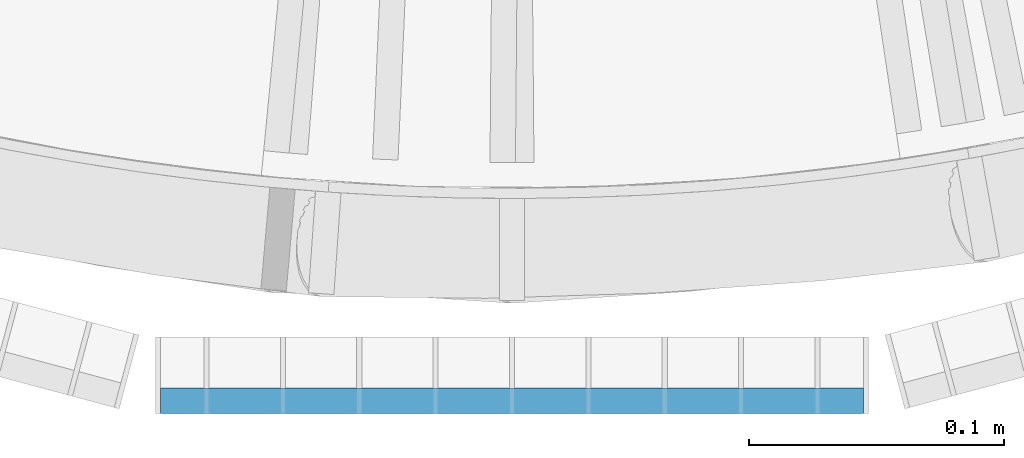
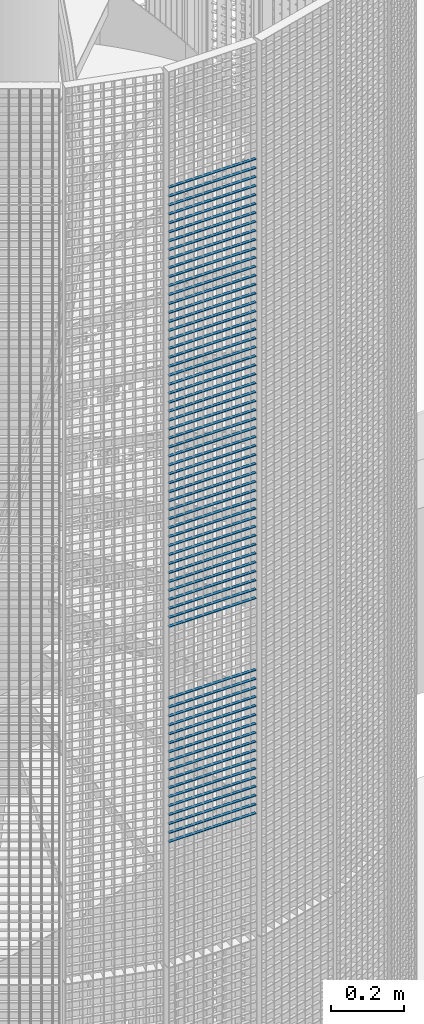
# One storey, part 137 of 1183: 67 beams, 1 element without a shape of its own.
"""IFC2X3 building model written with IfcOpenShell, lengths in millimetres."""

import ifcopenshell
import ifcopenshell.guid

model = None  # the IFC model being written
_history = None  # IfcOwnerHistory: only IFC2X3 demands one
_inside = {}  # id of a spatial element -> (the spatial element, [elements in it])
_under = {}  # id of a project, library or spatial element -> (it, [spatial elements below it])
_declared = {}  # id of a project -> (the project, [libraries it declares])
_typed = {}  # id of a type object -> (the type object, [elements of that type])
_made_of = {}  # id of a material, layer set ... -> (it, [elements and type objects made of it])


def new_model(schema):
    """Start an empty IFC model of exactly this schema.

    Asked for "IFC4X3", IfcOpenShell would pick the latest addendum, in which some entities
    have other attributes; the version numbers below select the first issue.
    IFC2X3 requires an IfcOwnerHistory on every rooted entity: one is made here for all.
    """
    global model, _history
    if schema == "IFC4X3":
        model = ifcopenshell.file(schema_version=(4, 3, 0, 0))
    else:
        model = ifcopenshell.file(schema=schema)
    _inside.clear()
    _under.clear()
    _declared.clear()
    _typed.clear()
    _made_of.clear()
    _history = None
    if model.schema == "IFC2X3":
        org = make("IfcOrganization", Name="unknown")
        user = make(
            "IfcPersonAndOrganization",
            ThePerson=make("IfcPerson", FamilyName="unknown"),
            TheOrganization=org,
        )
        app = make(
            "IfcApplication",
            ApplicationDeveloper=org,
            Version="unknown",
            ApplicationFullName="unknown",
            ApplicationIdentifier="unknown",
        )
        _history = make(
            "IfcOwnerHistory",
            OwningUser=user,
            OwningApplication=app,
            ChangeAction="ADDED",
            CreationDate=0,
        )
    return model


def make(cls, **values):
    """One entity of the class cls with the attributes given. An attribute that is None is left unset."""
    return model.create_entity(
        cls, **{name: value for name, value in values.items() if value is not None}
    )


def rooted(cls, **values):
    """An entity with a GlobalId (a new one), such as an element, a storey or a relation."""
    return make(cls, GlobalId=ifcopenshell.guid.new(), OwnerHistory=_history, **values)


def si_unit(unit_type, name, prefix=None):
    """IfcSIUnit, for example si_unit("LENGTHUNIT", "METRE", prefix="MILLI")."""
    return make("IfcSIUnit", UnitType=unit_type, Prefix=prefix, Name=name)


def assignment(units):
    """IfcUnitAssignment: the units of a project."""
    return None if units is None else make("IfcUnitAssignment", Units=units)


def point(xyz):
    """IfcCartesianPoint."""
    return None if xyz is None else make("IfcCartesianPoint", Coordinates=xyz)


def direction(xyz):
    """IfcDirection."""
    return None if xyz is None else make("IfcDirection", DirectionRatios=xyz)


def frame(location, z_axis=None, x_axis=None):
    """IfcAxis2Placement3D, a coordinate frame: its origin and axes. An axis left out is left unset."""
    return make(
        "IfcAxis2Placement3D",
        Location=point(location),
        Axis=direction(z_axis),
        RefDirection=direction(x_axis),
    )


def frame_2d(location, x_axis=None):
    """IfcAxis2Placement2D, a coordinate frame in the plane: its origin and x axis."""
    return make(
        "IfcAxis2Placement2D", Location=point(location), RefDirection=direction(x_axis)
    )


def origin_with_axes():
    """The frame at (0, 0, 0) with the z axis (0, 0, 1) and the x axis (1, 0, 0) written out."""
    return frame((0.0, 0.0, 0.0), z_axis=(0.0, 0.0, 1.0), x_axis=(1.0, 0.0, 0.0))


def origin_2d_with_axis():
    """The frame at (0, 0) in the plane with the x axis (1, 0) written out."""
    return frame_2d((0.0, 0.0), x_axis=(1.0, 0.0))


def place(relative_to, where):
    """IfcLocalPlacement: puts the frame where relative to a parent placement (None: the world)."""
    return make(
        "IfcLocalPlacement", PlacementRelTo=relative_to, RelativePlacement=where
    )


def context(
    kind, dimensions, precision=None, world=None, true_north=None, identifier=None
):
    """IfcGeometricRepresentationContext, for example the 3D "Model" context."""
    return make(
        "IfcGeometricRepresentationContext",
        ContextIdentifier=identifier,
        ContextType=kind,
        CoordinateSpaceDimension=dimensions,
        Precision=precision,
        WorldCoordinateSystem=world,
        TrueNorth=true_north,
    )


def subcontext(parent, identifier, kind, view, scale=None):
    """IfcGeometricRepresentationSubContext, for example "Body" below "Model"."""
    return make(
        "IfcGeometricRepresentationSubContext",
        ContextIdentifier=identifier,
        ContextType=kind,
        ParentContext=parent,
        TargetScale=scale,
        TargetView=view,
    )


def project(units=None, contexts=None):
    """IfcProject with its units and contexts."""
    return rooted(
        "IfcProject",
        Name="project",
        RepresentationContexts=contexts,
        UnitsInContext=assignment(units),
    )


def spatial(cls, under=None, at=None, **own):
    """A site, building, storey or space (cls), placed at a placement, below another one or the project."""
    s = rooted(cls, ObjectPlacement=at, **own)
    if under is not None:
        _under.setdefault(under.id(), (under, []))[1].append(s)
    return s


def profile(cls, at=None, kind="AREA", **sizes):
    """A parametric profile (cls). Its sizes go by their IFC names, for example OverallWidth=200.0."""
    return make(cls, ProfileType=kind, Position=at, **sizes)


def rectangle(**sizes):
    """IfcRectangleProfileDef."""
    return profile("IfcRectangleProfileDef", **sizes)


def extrude(swept, where, along, depth):
    """IfcExtrudedAreaSolid: the profile swept, set in the frame where, extruded along a direction by depth."""
    return make(
        "IfcExtrudedAreaSolid",
        SweptArea=swept,
        Position=where,
        ExtrudedDirection=direction(along),
        Depth=depth,
    )


def shape(context_of_items, identifier, shape_type, items):
    """IfcShapeRepresentation: the items that make up one representation, for example the "Body"."""
    return make(
        "IfcShapeRepresentation",
        ContextOfItems=context_of_items,
        RepresentationIdentifier=identifier,
        RepresentationType=shape_type,
        Items=items,
    )


def material(Name=None, Category=None):
    """IfcMaterial."""
    return make("IfcMaterial", Name=Name, Category=Category)


def made_of(thing, what):
    """Note that an element or type object is made of a material, layer set ...; save() writes the relation."""
    if what is not None:
        _made_of.setdefault(what.id(), (what, []))[1].append(thing)
    return thing


def type_object(cls, material=None, **own):
    """A type object (cls), such as IfcWallType, which elements share."""
    return made_of(rooted(cls, **own), material)


def element(
    cls,
    number,
    at=None,
    inside=None,
    cuts=None,
    type_object=None,
    material=None,
    context=None,
    identifier="Body",
    shape_type=None,
    held_by="IfcProductDefinitionShape",
    body=None,
    shapes=None,
    **own,
):
    """One element of the class cls, such as IfcWall. Its Tag is "e" and its number.

    at: its placement. inside: the storey or other place that contains it. cuts: it is an
    opening in that element (IfcRelVoidsElement). A single representation is given by context,
    identifier, shape_type and body (its items); several are given by shapes. held_by: the class
    of the entity that holds the representations. save() writes the other relations.
    """
    e = rooted(cls, Tag="e%d" % number, ObjectPlacement=at, **own)
    if body is not None:
        shapes = [shape(context, identifier, shape_type, body)]
    if shapes is not None:
        e.Representation = make(held_by, Representations=shapes)
    if inside is not None:
        _inside.setdefault(inside.id(), (inside, []))[1].append(e)
    if cuts is not None:
        rooted(
            "IfcRelVoidsElement", RelatingBuildingElement=cuts, RelatedOpeningElement=e
        )
    if type_object is not None:
        _typed.setdefault(type_object.id(), (type_object, []))[1].append(e)
    return made_of(e, material)


def aggregate(whole, parts):
    """IfcRelAggregates: a whole, such as a stair, and the parts it consists of."""
    return rooted("IfcRelAggregates", RelatingObject=whole, RelatedObjects=parts)


def save(model, path):
    """Write the relations noted so far, then the file.

    IfcRelAggregates (storeys below a building ...), IfcRelContainedInSpatialStructure (elements
    in a storey), IfcRelDefinesByType, IfcRelAssociatesMaterial and IfcRelDeclares: one each for
    every whole, place, type object, material and project.
    """
    for whole, parts in _under.values():
        aggregate(whole, parts)
    for where, things in _inside.values():
        rooted(
            "IfcRelContainedInSpatialStructure",
            RelatedElements=things,
            RelatingStructure=where,
        )
    for kind, things in _typed.values():
        rooted("IfcRelDefinesByType", RelatedObjects=things, RelatingType=kind)
    for what, things in _made_of.values():
        rooted("IfcRelAssociatesMaterial", RelatedObjects=things, RelatingMaterial=what)
    for by, libraries in _declared.values():
        rooted("IfcRelDeclares", RelatingContext=by, RelatedDefinitions=libraries)
    model.write(path)


model = new_model("IFC2X3")

# Units and contexts
model_context = context("Model", 3, precision=1e-05, world=origin_with_axes())
body_context = subcontext(model_context, "Body", "Model", "MODEL_VIEW")
ifc_project = project(units=[si_unit("LENGTHUNIT", "METRE", prefix="MILLI"), si_unit("AREAUNIT", "SQUARE_METRE"), si_unit("VOLUMEUNIT", "CUBIC_METRE"), si_unit("MASSUNIT", "GRAM", prefix="KILO"), si_unit("TIMEUNIT", "SECOND"), si_unit("PLANEANGLEUNIT", "RADIAN"), si_unit("SOLIDANGLEUNIT", "STERADIAN"), si_unit("THERMODYNAMICTEMPERATUREUNIT", "DEGREE_CELSIUS"), si_unit("LUMINOUSINTENSITYUNIT", "LUMEN")], contexts=[model_context])

# Site, building, storey
site_placement = place(None, origin_with_axes())
site = spatial("IfcSite", under=ifc_project, at=site_placement, Name="Undefined", CompositionType="ELEMENT")
building_placement = place(site_placement, origin_with_axes())
building = spatial("IfcBuilding", under=site, at=building_placement, Name="Undefined", CompositionType="ELEMENT")
storey_placement = place(building_placement, origin_with_axes())
storey = spatial("IfcBuildingStorey", under=building, at=storey_placement, Name="Undefined", CompositionType="ELEMENT", Elevation=0.0)

# Assembly, beams
assembly_placement = place(storey_placement, origin_with_axes())
assembly = element("IfcElementAssembly", 1, at=assembly_placement, inside=storey, Name="BORDURE", AssemblyPlace="NOTDEFINED", PredefinedType="NOTDEFINED")
ifc_material = material(Name="STEEL/S235JR")
beam_type = type_object("IfcBeamType", Name="PL2*10", PredefinedType="NOTDEFINED")
beam_1_placement = place(assembly_placement, frame((-137.99600337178, -1113.47999999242, 17610.0), z_axis=(0.0, -1.0, 0.0), x_axis=(1.0, 0.0, 0.0)))
beam_1 = element("IfcBeam", 2, at=beam_1_placement, type_object=beam_type, material=ifc_material, Name="ENTRETOISE", context=body_context, shape_type="SweptSolid", body=[
    extrude(rectangle(XDim=2.0, YDim=10.0, at=origin_2d_with_axis()), frame((275.999999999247, 9.09494701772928e-13, 1.53210777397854e-14), z_axis=(-1.0, 0.0, 0.0), x_axis=(0.0, -1.0, 0.0)), (0.0, 0.0, 1.0), 276.0),
])
beam_2_placement = place(assembly_placement, frame((-137.99600337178, -1113.47999999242, 17580.0), z_axis=(0.0, -1.0, 0.0), x_axis=(1.0, 0.0, 0.0)))
beam_2 = element("IfcBeam", 3, at=beam_2_placement, type_object=beam_type, material=ifc_material, Name="ENTRETOISE", context=body_context, shape_type="SweptSolid", body=[
    extrude(rectangle(XDim=2.0, YDim=10.0, at=origin_2d_with_axis()), frame((275.999999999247, 9.09494701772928e-13, 1.53210777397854e-14), z_axis=(-1.0, 0.0, 0.0), x_axis=(0.0, -1.0, 0.0)), (0.0, 0.0, 1.0), 276.0),
])
beam_3_placement = place(assembly_placement, frame((-137.99600337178, -1113.47999999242, 17550.0), z_axis=(0.0, -1.0, 0.0), x_axis=(1.0, 0.0, 0.0)))
beam_3 = element("IfcBeam", 4, at=beam_3_placement, type_object=beam_type, material=ifc_material, Name="ENTRETOISE", context=body_context, shape_type="SweptSolid", body=[
    extrude(rectangle(XDim=2.0, YDim=10.0, at=origin_2d_with_axis()), frame((275.999999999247, 9.09494701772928e-13, 1.53210777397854e-14), z_axis=(-1.0, 0.0, 0.0), x_axis=(0.0, -1.0, 0.0)), (0.0, 0.0, 1.0), 276.0),
])
beam_4_placement = place(assembly_placement, frame((-137.99600337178, -1113.47999999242, 17520.0), z_axis=(0.0, -1.0, 0.0), x_axis=(1.0, 0.0, 0.0)))
beam_4 = element("IfcBeam", 5, at=beam_4_placement, type_object=beam_type, material=ifc_material, Name="ENTRETOISE", context=body_context, shape_type="SweptSolid", body=[
    extrude(rectangle(XDim=2.0, YDim=10.0, at=origin_2d_with_axis()), frame((275.999999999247, 9.09494701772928e-13, 1.53210777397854e-14), z_axis=(-1.0, 0.0, 0.0), x_axis=(0.0, -1.0, 0.0)), (0.0, 0.0, 1.0), 276.0),
])
beam_5_placement = place(assembly_placement, frame((-137.99600337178, -1113.47999999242, 17490.0), z_axis=(0.0, -1.0, 0.0), x_axis=(1.0, 0.0, 0.0)))
beam_5 = element("IfcBeam", 6, at=beam_5_placement, type_object=beam_type, material=ifc_material, Name="ENTRETOISE", context=body_context, shape_type="SweptSolid", body=[
    extrude(rectangle(XDim=2.0, YDim=10.0, at=origin_2d_with_axis()), frame((275.999999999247, 9.09494701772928e-13, 1.53210777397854e-14), z_axis=(-1.0, 0.0, 0.0), x_axis=(0.0, -1.0, 0.0)), (0.0, 0.0, 1.0), 276.0),
])
beam_6_placement = place(assembly_placement, frame((-137.99600337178, -1113.47999999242, 17460.0), z_axis=(0.0, -1.0, 0.0), x_axis=(1.0, 0.0, 0.0)))
beam_6 = element("IfcBeam", 7, at=beam_6_placement, type_object=beam_type, material=ifc_material, Name="ENTRETOISE", context=body_context, shape_type="SweptSolid", body=[
    extrude(rectangle(XDim=2.0, YDim=10.0, at=origin_2d_with_axis()), frame((275.999999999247, 9.09494701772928e-13, 1.53210777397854e-14), z_axis=(-1.0, 0.0, 0.0), x_axis=(0.0, -1.0, 0.0)), (0.0, 0.0, 1.0), 276.0),
])
beam_7_placement = place(assembly_placement, frame((-137.99600337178, -1113.47999999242, 17430.0), z_axis=(0.0, -1.0, 0.0), x_axis=(1.0, 0.0, 0.0)))
beam_7 = element("IfcBeam", 8, at=beam_7_placement, type_object=beam_type, material=ifc_material, Name="ENTRETOISE", context=body_context, shape_type="SweptSolid", body=[
    extrude(rectangle(XDim=2.0, YDim=10.0, at=origin_2d_with_axis()), frame((275.999999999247, 9.09494701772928e-13, 1.53210777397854e-14), z_axis=(-1.0, 0.0, 0.0), x_axis=(0.0, -1.0, 0.0)), (0.0, 0.0, 1.0), 276.0),
])
beam_8_placement = place(assembly_placement, frame((-137.99600337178, -1113.47999999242, 17400.0), z_axis=(0.0, -1.0, 0.0), x_axis=(1.0, 0.0, 0.0)))
beam_8 = element("IfcBeam", 9, at=beam_8_placement, type_object=beam_type, material=ifc_material, Name="ENTRETOISE", context=body_context, shape_type="SweptSolid", body=[
    extrude(rectangle(XDim=2.0, YDim=10.0, at=origin_2d_with_axis()), frame((275.999999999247, 9.09494701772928e-13, 1.53210777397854e-14), z_axis=(-1.0, 0.0, 0.0), x_axis=(0.0, -1.0, 0.0)), (0.0, 0.0, 1.0), 276.0),
])
beam_9_placement = place(assembly_placement, frame((-137.99600337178, -1113.47999999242, 17370.0), z_axis=(0.0, -1.0, 0.0), x_axis=(1.0, 0.0, 0.0)))
beam_9 = element("IfcBeam", 10, at=beam_9_placement, type_object=beam_type, material=ifc_material, Name="ENTRETOISE", context=body_context, shape_type="SweptSolid", body=[
    extrude(rectangle(XDim=2.0, YDim=10.0, at=origin_2d_with_axis()), frame((275.999999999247, 9.09494701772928e-13, 1.53210777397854e-14), z_axis=(-1.0, 0.0, 0.0), x_axis=(0.0, -1.0, 0.0)), (0.0, 0.0, 1.0), 276.0),
])
beam_10_placement = place(assembly_placement, frame((-137.99600337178, -1113.47999999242, 17340.0), z_axis=(0.0, -1.0, 0.0), x_axis=(1.0, 0.0, 0.0)))
beam_10 = element("IfcBeam", 11, at=beam_10_placement, type_object=beam_type, material=ifc_material, Name="ENTRETOISE", context=body_context, shape_type="SweptSolid", body=[
    extrude(rectangle(XDim=2.0, YDim=10.0, at=origin_2d_with_axis()), frame((275.999999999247, 9.09494701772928e-13, 1.53210777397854e-14), z_axis=(-1.0, 0.0, 0.0), x_axis=(0.0, -1.0, 0.0)), (0.0, 0.0, 1.0), 276.0),
])
beam_11_placement = place(assembly_placement, frame((-137.996003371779, -1113.47999999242, 17310.0), z_axis=(0.0, -1.0, 0.0), x_axis=(1.0, 0.0, 0.0)))
beam_11 = element("IfcBeam", 12, at=beam_11_placement, type_object=beam_type, material=ifc_material, Name="ENTRETOISE", context=body_context, shape_type="SweptSolid", body=[
    extrude(rectangle(XDim=2.0, YDim=10.0, at=origin_2d_with_axis()), frame((275.999999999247, 9.09494701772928e-13, 1.53210777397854e-14), z_axis=(-1.0, 0.0, 0.0), x_axis=(0.0, -1.0, 0.0)), (0.0, 0.0, 1.0), 276.0),
])
beam_12_placement = place(assembly_placement, frame((-137.996003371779, -1113.47999999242, 17280.0), z_axis=(0.0, -1.0, 0.0), x_axis=(1.0, 0.0, 0.0)))
beam_12 = element("IfcBeam", 13, at=beam_12_placement, type_object=beam_type, material=ifc_material, Name="ENTRETOISE", context=body_context, shape_type="SweptSolid", body=[
    extrude(rectangle(XDim=2.0, YDim=10.0, at=origin_2d_with_axis()), frame((275.999999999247, 9.09494701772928e-13, 1.53210777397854e-14), z_axis=(-1.0, 0.0, 0.0), x_axis=(0.0, -1.0, 0.0)), (0.0, 0.0, 1.0), 276.0),
])
beam_13_placement = place(assembly_placement, frame((-137.996003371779, -1113.47999999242, 17250.0), z_axis=(0.0, -1.0, 0.0), x_axis=(1.0, 0.0, 0.0)))
beam_13 = element("IfcBeam", 14, at=beam_13_placement, type_object=beam_type, material=ifc_material, Name="ENTRETOISE", context=body_context, shape_type="SweptSolid", body=[
    extrude(rectangle(XDim=2.0, YDim=10.0, at=origin_2d_with_axis()), frame((275.999999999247, 9.09494701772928e-13, 1.53210777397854e-14), z_axis=(-1.0, 0.0, 0.0), x_axis=(0.0, -1.0, 0.0)), (0.0, 0.0, 1.0), 276.0),
])
beam_14_placement = place(assembly_placement, frame((-137.996003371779, -1113.47999999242, 17220.0), z_axis=(0.0, -1.0, 0.0), x_axis=(1.0, 0.0, 0.0)))
beam_14 = element("IfcBeam", 15, at=beam_14_placement, type_object=beam_type, material=ifc_material, Name="ENTRETOISE", context=body_context, shape_type="SweptSolid", body=[
    extrude(rectangle(XDim=2.0, YDim=10.0, at=origin_2d_with_axis()), frame((275.999999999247, 9.09494701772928e-13, 1.53210777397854e-14), z_axis=(-1.0, 0.0, 0.0), x_axis=(0.0, -1.0, 0.0)), (0.0, 0.0, 1.0), 276.0),
])
beam_15_placement = place(assembly_placement, frame((-137.996003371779, -1113.47999999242, 17190.0), z_axis=(0.0, -1.0, 0.0), x_axis=(1.0, 0.0, 0.0)))
beam_15 = element("IfcBeam", 16, at=beam_15_placement, type_object=beam_type, material=ifc_material, Name="ENTRETOISE", context=body_context, shape_type="SweptSolid", body=[
    extrude(rectangle(XDim=2.0, YDim=10.0, at=origin_2d_with_axis()), frame((275.999999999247, 9.09494701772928e-13, 1.53210777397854e-14), z_axis=(-1.0, 0.0, 0.0), x_axis=(0.0, -1.0, 0.0)), (0.0, 0.0, 1.0), 276.0),
])
beam_16_placement = place(assembly_placement, frame((-137.996003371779, -1113.47999999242, 17160.0), z_axis=(0.0, -1.0, 0.0), x_axis=(1.0, 0.0, 0.0)))
beam_16 = element("IfcBeam", 17, at=beam_16_placement, type_object=beam_type, material=ifc_material, Name="ENTRETOISE", context=body_context, shape_type="SweptSolid", body=[
    extrude(rectangle(XDim=2.0, YDim=10.0, at=origin_2d_with_axis()), frame((275.999999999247, 9.09494701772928e-13, 1.53210777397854e-14), z_axis=(-1.0, 0.0, 0.0), x_axis=(0.0, -1.0, 0.0)), (0.0, 0.0, 1.0), 276.0),
])
beam_17_placement = place(assembly_placement, frame((-137.996003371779, -1113.47999999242, 17130.0), z_axis=(0.0, -1.0, 0.0), x_axis=(1.0, 0.0, 0.0)))
beam_17 = element("IfcBeam", 18, at=beam_17_placement, type_object=beam_type, material=ifc_material, Name="ENTRETOISE", context=body_context, shape_type="SweptSolid", body=[
    extrude(rectangle(XDim=2.0, YDim=10.0, at=origin_2d_with_axis()), frame((275.999999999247, 9.09494701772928e-13, 1.53210777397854e-14), z_axis=(-1.0, 0.0, 0.0), x_axis=(0.0, -1.0, 0.0)), (0.0, 0.0, 1.0), 276.0),
])
beam_18_placement = place(assembly_placement, frame((-137.996003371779, -1113.47999999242, 17100.0), z_axis=(0.0, -1.0, 0.0), x_axis=(1.0, 0.0, 0.0)))
beam_18 = element("IfcBeam", 19, at=beam_18_placement, type_object=beam_type, material=ifc_material, Name="ENTRETOISE", context=body_context, shape_type="SweptSolid", body=[
    extrude(rectangle(XDim=2.0, YDim=10.0, at=origin_2d_with_axis()), frame((275.999999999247, 9.09494701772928e-13, 1.53210777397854e-14), z_axis=(-1.0, 0.0, 0.0), x_axis=(0.0, -1.0, 0.0)), (0.0, 0.0, 1.0), 276.0),
])
beam_19_placement = place(assembly_placement, frame((-137.996003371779, -1113.47999999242, 17070.0), z_axis=(0.0, -1.0, 0.0), x_axis=(1.0, 0.0, 0.0)))
beam_19 = element("IfcBeam", 20, at=beam_19_placement, type_object=beam_type, material=ifc_material, Name="ENTRETOISE", context=body_context, shape_type="SweptSolid", body=[
    extrude(rectangle(XDim=2.0, YDim=10.0, at=origin_2d_with_axis()), frame((275.999999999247, 9.09494701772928e-13, 1.53210777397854e-14), z_axis=(-1.0, 0.0, 0.0), x_axis=(0.0, -1.0, 0.0)), (0.0, 0.0, 1.0), 276.0),
])
beam_20_placement = place(assembly_placement, frame((-137.996003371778, -1113.47999999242, 17040.0), z_axis=(0.0, -1.0, 0.0), x_axis=(1.0, 0.0, 0.0)))
beam_20 = element("IfcBeam", 21, at=beam_20_placement, type_object=beam_type, material=ifc_material, Name="ENTRETOISE", context=body_context, shape_type="SweptSolid", body=[
    extrude(rectangle(XDim=2.0, YDim=10.0, at=origin_2d_with_axis()), frame((275.999999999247, 9.09494701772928e-13, 1.53210777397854e-14), z_axis=(-1.0, 0.0, 0.0), x_axis=(0.0, -1.0, 0.0)), (0.0, 0.0, 1.0), 276.0),
])
beam_21_placement = place(assembly_placement, frame((-137.996003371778, -1113.47999999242, 17010.0), z_axis=(0.0, -1.0, 0.0), x_axis=(1.0, 0.0, 0.0)))
beam_21 = element("IfcBeam", 22, at=beam_21_placement, type_object=beam_type, material=ifc_material, Name="ENTRETOISE", context=body_context, shape_type="SweptSolid", body=[
    extrude(rectangle(XDim=2.0, YDim=10.0, at=origin_2d_with_axis()), frame((275.999999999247, 9.09494701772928e-13, 1.53210777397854e-14), z_axis=(-1.0, 0.0, 0.0), x_axis=(0.0, -1.0, 0.0)), (0.0, 0.0, 1.0), 276.0),
])
beam_22_placement = place(assembly_placement, frame((-137.996003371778, -1113.47999999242, 16980.0), z_axis=(0.0, -1.0, 0.0), x_axis=(1.0, 0.0, 0.0)))
beam_22 = element("IfcBeam", 23, at=beam_22_placement, type_object=beam_type, material=ifc_material, Name="ENTRETOISE", context=body_context, shape_type="SweptSolid", body=[
    extrude(rectangle(XDim=2.0, YDim=10.0, at=origin_2d_with_axis()), frame((275.999999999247, 9.09494701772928e-13, 1.53210777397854e-14), z_axis=(-1.0, 0.0, 0.0), x_axis=(0.0, -1.0, 0.0)), (0.0, 0.0, 1.0), 276.0),
])
beam_23_placement = place(assembly_placement, frame((-137.996003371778, -1113.47999999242, 16950.0), z_axis=(0.0, -1.0, 0.0), x_axis=(1.0, 0.0, 0.0)))
beam_23 = element("IfcBeam", 24, at=beam_23_placement, type_object=beam_type, material=ifc_material, Name="ENTRETOISE", context=body_context, shape_type="SweptSolid", body=[
    extrude(rectangle(XDim=2.0, YDim=10.0, at=origin_2d_with_axis()), frame((275.999999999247, 9.09494701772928e-13, 1.53210777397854e-14), z_axis=(-1.0, 0.0, 0.0), x_axis=(0.0, -1.0, 0.0)), (0.0, 0.0, 1.0), 276.0),
])
beam_24_placement = place(assembly_placement, frame((-137.996003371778, -1113.47999999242, 16920.0), z_axis=(0.0, -1.0, 0.0), x_axis=(1.0, 0.0, 0.0)))
beam_24 = element("IfcBeam", 25, at=beam_24_placement, type_object=beam_type, material=ifc_material, Name="ENTRETOISE", context=body_context, shape_type="SweptSolid", body=[
    extrude(rectangle(XDim=2.0, YDim=10.0, at=origin_2d_with_axis()), frame((275.999999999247, 9.09494701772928e-13, 1.53210777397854e-14), z_axis=(-1.0, 0.0, 0.0), x_axis=(0.0, -1.0, 0.0)), (0.0, 0.0, 1.0), 276.0),
])
beam_25_placement = place(assembly_placement, frame((-137.996003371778, -1113.47999999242, 16890.0), z_axis=(0.0, -1.0, 0.0), x_axis=(1.0, 0.0, 0.0)))
beam_25 = element("IfcBeam", 26, at=beam_25_placement, type_object=beam_type, material=ifc_material, Name="ENTRETOISE", context=body_context, shape_type="SweptSolid", body=[
    extrude(rectangle(XDim=2.0, YDim=10.0, at=origin_2d_with_axis()), frame((275.999999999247, 9.09494701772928e-13, 1.53210777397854e-14), z_axis=(-1.0, 0.0, 0.0), x_axis=(0.0, -1.0, 0.0)), (0.0, 0.0, 1.0), 276.0),
])
beam_26_placement = place(assembly_placement, frame((-137.996003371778, -1113.47999999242, 16860.0), z_axis=(0.0, -1.0, 0.0), x_axis=(1.0, 0.0, 0.0)))
beam_26 = element("IfcBeam", 27, at=beam_26_placement, type_object=beam_type, material=ifc_material, Name="ENTRETOISE", context=body_context, shape_type="SweptSolid", body=[
    extrude(rectangle(XDim=2.0, YDim=10.0, at=origin_2d_with_axis()), frame((275.999999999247, 9.09494701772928e-13, 1.53210777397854e-14), z_axis=(-1.0, 0.0, 0.0), x_axis=(0.0, -1.0, 0.0)), (0.0, 0.0, 1.0), 276.0),
])
beam_27_placement = place(assembly_placement, frame((-137.996003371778, -1113.47999999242, 16830.0), z_axis=(0.0, -1.0, 0.0), x_axis=(1.0, 0.0, 0.0)))
beam_27 = element("IfcBeam", 28, at=beam_27_placement, type_object=beam_type, material=ifc_material, Name="ENTRETOISE", context=body_context, shape_type="SweptSolid", body=[
    extrude(rectangle(XDim=2.0, YDim=10.0, at=origin_2d_with_axis()), frame((275.999999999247, 9.09494701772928e-13, 1.53210777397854e-14), z_axis=(-1.0, 0.0, 0.0), x_axis=(0.0, -1.0, 0.0)), (0.0, 0.0, 1.0), 276.0),
])
beam_28_placement = place(assembly_placement, frame((-137.996003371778, -1113.47999999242, 16800.0), z_axis=(0.0, -1.0, 0.0), x_axis=(1.0, 0.0, 0.0)))
beam_28 = element("IfcBeam", 29, at=beam_28_placement, type_object=beam_type, material=ifc_material, Name="ENTRETOISE", context=body_context, shape_type="SweptSolid", body=[
    extrude(rectangle(XDim=2.0, YDim=10.0, at=origin_2d_with_axis()), frame((275.999999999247, 9.09494701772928e-13, 1.53210777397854e-14), z_axis=(-1.0, 0.0, 0.0), x_axis=(0.0, -1.0, 0.0)), (0.0, 0.0, 1.0), 276.0),
])
beam_29_placement = place(assembly_placement, frame((-137.996003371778, -1113.47999999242, 16770.0), z_axis=(0.0, -1.0, 0.0), x_axis=(1.0, 0.0, 0.0)))
beam_29 = element("IfcBeam", 30, at=beam_29_placement, type_object=beam_type, material=ifc_material, Name="ENTRETOISE", context=body_context, shape_type="SweptSolid", body=[
    extrude(rectangle(XDim=2.0, YDim=10.0, at=origin_2d_with_axis()), frame((275.999999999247, 9.09494701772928e-13, 1.53210777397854e-14), z_axis=(-1.0, 0.0, 0.0), x_axis=(0.0, -1.0, 0.0)), (0.0, 0.0, 1.0), 276.0),
])
beam_30_placement = place(assembly_placement, frame((-137.996003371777, -1113.47999999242, 16740.0), z_axis=(0.0, -1.0, 0.0), x_axis=(1.0, 0.0, 0.0)))
beam_30 = element("IfcBeam", 31, at=beam_30_placement, type_object=beam_type, material=ifc_material, Name="ENTRETOISE", context=body_context, shape_type="SweptSolid", body=[
    extrude(rectangle(XDim=2.0, YDim=10.0, at=origin_2d_with_axis()), frame((275.999999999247, 9.09494701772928e-13, 1.53210777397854e-14), z_axis=(-1.0, 0.0, 0.0), x_axis=(0.0, -1.0, 0.0)), (0.0, 0.0, 1.0), 276.0),
])
beam_31_placement = place(assembly_placement, frame((-137.996003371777, -1113.47999999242, 16710.0), z_axis=(0.0, -1.0, 0.0), x_axis=(1.0, 0.0, 0.0)))
beam_31 = element("IfcBeam", 32, at=beam_31_placement, type_object=beam_type, material=ifc_material, Name="ENTRETOISE", context=body_context, shape_type="SweptSolid", body=[
    extrude(rectangle(XDim=2.0, YDim=10.0, at=origin_2d_with_axis()), frame((275.999999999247, 9.09494701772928e-13, 1.53210777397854e-14), z_axis=(-1.0, 0.0, 0.0), x_axis=(0.0, -1.0, 0.0)), (0.0, 0.0, 1.0), 276.0),
])
beam_32_placement = place(assembly_placement, frame((-137.996003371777, -1113.47999999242, 16680.0), z_axis=(0.0, -1.0, 0.0), x_axis=(1.0, 0.0, 0.0)))
beam_32 = element("IfcBeam", 33, at=beam_32_placement, type_object=beam_type, material=ifc_material, Name="ENTRETOISE", context=body_context, shape_type="SweptSolid", body=[
    extrude(rectangle(XDim=2.0, YDim=10.0, at=origin_2d_with_axis()), frame((275.999999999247, 9.09494701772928e-13, 1.53210777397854e-14), z_axis=(-1.0, 0.0, 0.0), x_axis=(0.0, -1.0, 0.0)), (0.0, 0.0, 1.0), 276.0),
])
beam_33_placement = place(assembly_placement, frame((-137.996003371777, -1113.47999999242, 16650.0), z_axis=(0.0, -1.0, 0.0), x_axis=(1.0, 0.0, 0.0)))
beam_33 = element("IfcBeam", 34, at=beam_33_placement, type_object=beam_type, material=ifc_material, Name="ENTRETOISE", context=body_context, shape_type="SweptSolid", body=[
    extrude(rectangle(XDim=2.0, YDim=10.0, at=origin_2d_with_axis()), frame((275.999999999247, 9.09494701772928e-13, 1.53210777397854e-14), z_axis=(-1.0, 0.0, 0.0), x_axis=(0.0, -1.0, 0.0)), (0.0, 0.0, 1.0), 276.0),
])
beam_34_placement = place(assembly_placement, frame((-137.996003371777, -1113.47999999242, 16620.0), z_axis=(0.0, -1.0, 0.0), x_axis=(1.0, 0.0, 0.0)))
beam_34 = element("IfcBeam", 35, at=beam_34_placement, type_object=beam_type, material=ifc_material, Name="ENTRETOISE", context=body_context, shape_type="SweptSolid", body=[
    extrude(rectangle(XDim=2.0, YDim=10.0, at=origin_2d_with_axis()), frame((275.999999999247, 9.09494701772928e-13, 1.53210777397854e-14), z_axis=(-1.0, 0.0, 0.0), x_axis=(0.0, -1.0, 0.0)), (0.0, 0.0, 1.0), 276.0),
])
beam_35_placement = place(assembly_placement, frame((-137.996003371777, -1113.47999999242, 16590.0), z_axis=(0.0, -1.0, 0.0), x_axis=(1.0, 0.0, 0.0)))
beam_35 = element("IfcBeam", 36, at=beam_35_placement, type_object=beam_type, material=ifc_material, Name="ENTRETOISE", context=body_context, shape_type="SweptSolid", body=[
    extrude(rectangle(XDim=2.0, YDim=10.0, at=origin_2d_with_axis()), frame((275.999999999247, 9.09494701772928e-13, 1.53210777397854e-14), z_axis=(-1.0, 0.0, 0.0), x_axis=(0.0, -1.0, 0.0)), (0.0, 0.0, 1.0), 276.0),
])
beam_36_placement = place(assembly_placement, frame((-137.996003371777, -1113.47999999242, 16560.0), z_axis=(0.0, -1.0, 0.0), x_axis=(1.0, 0.0, 0.0)))
beam_36 = element("IfcBeam", 37, at=beam_36_placement, type_object=beam_type, material=ifc_material, Name="ENTRETOISE", context=body_context, shape_type="SweptSolid", body=[
    extrude(rectangle(XDim=2.0, YDim=10.0, at=origin_2d_with_axis()), frame((275.999999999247, 9.09494701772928e-13, 1.53210777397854e-14), z_axis=(-1.0, 0.0, 0.0), x_axis=(0.0, -1.0, 0.0)), (0.0, 0.0, 1.0), 276.0),
])
beam_37_placement = place(assembly_placement, frame((-137.996003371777, -1113.47999999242, 16530.0), z_axis=(0.0, -1.0, 0.0), x_axis=(1.0, 0.0, 0.0)))
beam_37 = element("IfcBeam", 38, at=beam_37_placement, type_object=beam_type, material=ifc_material, Name="ENTRETOISE", context=body_context, shape_type="SweptSolid", body=[
    extrude(rectangle(XDim=2.0, YDim=10.0, at=origin_2d_with_axis()), frame((275.999999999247, 9.09494701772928e-13, 1.53210777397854e-14), z_axis=(-1.0, 0.0, 0.0), x_axis=(0.0, -1.0, 0.0)), (0.0, 0.0, 1.0), 276.0),
])
beam_38_placement = place(assembly_placement, frame((-137.996003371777, -1113.47999999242, 16500.0), z_axis=(0.0, -1.0, 0.0), x_axis=(1.0, 0.0, 0.0)))
beam_38 = element("IfcBeam", 39, at=beam_38_placement, type_object=beam_type, material=ifc_material, Name="ENTRETOISE", context=body_context, shape_type="SweptSolid", body=[
    extrude(rectangle(XDim=2.0, YDim=10.0, at=origin_2d_with_axis()), frame((275.999999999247, 9.09494701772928e-13, 1.53210777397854e-14), z_axis=(-1.0, 0.0, 0.0), x_axis=(0.0, -1.0, 0.0)), (0.0, 0.0, 1.0), 276.0),
])
beam_39_placement = place(assembly_placement, frame((-137.996003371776, -1113.47999999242, 16470.0), z_axis=(0.0, -1.0, 0.0), x_axis=(1.0, 0.0, 0.0)))
beam_39 = element("IfcBeam", 40, at=beam_39_placement, type_object=beam_type, material=ifc_material, Name="ENTRETOISE", context=body_context, shape_type="SweptSolid", body=[
    extrude(rectangle(XDim=2.0, YDim=10.0, at=origin_2d_with_axis()), frame((275.999999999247, 9.09494701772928e-13, 1.53210777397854e-14), z_axis=(-1.0, 0.0, 0.0), x_axis=(0.0, -1.0, 0.0)), (0.0, 0.0, 1.0), 276.0),
])
beam_40_placement = place(assembly_placement, frame((-137.996003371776, -1113.47999999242, 16440.0), z_axis=(0.0, -1.0, 0.0), x_axis=(1.0, 0.0, 0.0)))
beam_40 = element("IfcBeam", 41, at=beam_40_placement, type_object=beam_type, material=ifc_material, Name="ENTRETOISE", context=body_context, shape_type="SweptSolid", body=[
    extrude(rectangle(XDim=2.0, YDim=10.0, at=origin_2d_with_axis()), frame((275.999999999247, 9.09494701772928e-13, 1.53210777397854e-14), z_axis=(-1.0, 0.0, 0.0), x_axis=(0.0, -1.0, 0.0)), (0.0, 0.0, 1.0), 276.0),
])
beam_41_placement = place(assembly_placement, frame((-137.996003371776, -1113.47999999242, 16410.0), z_axis=(0.0, -1.0, 0.0), x_axis=(1.0, 0.0, 0.0)))
beam_41 = element("IfcBeam", 42, at=beam_41_placement, type_object=beam_type, material=ifc_material, Name="ENTRETOISE", context=body_context, shape_type="SweptSolid", body=[
    extrude(rectangle(XDim=2.0, YDim=10.0, at=origin_2d_with_axis()), frame((275.999999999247, 9.09494701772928e-13, 1.53210777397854e-14), z_axis=(-1.0, 0.0, 0.0), x_axis=(0.0, -1.0, 0.0)), (0.0, 0.0, 1.0), 276.0),
])
beam_42_placement = place(assembly_placement, frame((-137.996003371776, -1113.47999999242, 16380.0), z_axis=(0.0, -1.0, 0.0), x_axis=(1.0, 0.0, 0.0)))
beam_42 = element("IfcBeam", 43, at=beam_42_placement, type_object=beam_type, material=ifc_material, Name="ENTRETOISE", context=body_context, shape_type="SweptSolid", body=[
    extrude(rectangle(XDim=2.0, YDim=10.0, at=origin_2d_with_axis()), frame((275.999999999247, 9.09494701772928e-13, 1.53210777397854e-14), z_axis=(-1.0, 0.0, 0.0), x_axis=(0.0, -1.0, 0.0)), (0.0, 0.0, 1.0), 276.0),
])
beam_43_placement = place(assembly_placement, frame((-137.996003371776, -1113.47999999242, 16350.0), z_axis=(0.0, -1.0, 0.0), x_axis=(1.0, 0.0, 0.0)))
beam_43 = element("IfcBeam", 44, at=beam_43_placement, type_object=beam_type, material=ifc_material, Name="ENTRETOISE", context=body_context, shape_type="SweptSolid", body=[
    extrude(rectangle(XDim=2.0, YDim=10.0, at=origin_2d_with_axis()), frame((275.999999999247, 9.09494701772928e-13, 1.53210777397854e-14), z_axis=(-1.0, 0.0, 0.0), x_axis=(0.0, -1.0, 0.0)), (0.0, 0.0, 1.0), 276.0),
])
beam_44_placement = place(assembly_placement, frame((-137.996003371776, -1113.47999999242, 16320.0), z_axis=(0.0, -1.0, 0.0), x_axis=(1.0, 0.0, 0.0)))
beam_44 = element("IfcBeam", 45, at=beam_44_placement, type_object=beam_type, material=ifc_material, Name="ENTRETOISE", context=body_context, shape_type="SweptSolid", body=[
    extrude(rectangle(XDim=2.0, YDim=10.0, at=origin_2d_with_axis()), frame((275.999999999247, 9.09494701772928e-13, 1.53210777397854e-14), z_axis=(-1.0, 0.0, 0.0), x_axis=(0.0, -1.0, 0.0)), (0.0, 0.0, 1.0), 276.0),
])
beam_45_placement = place(assembly_placement, frame((-137.996003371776, -1113.47999999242, 16290.0), z_axis=(0.0, -1.0, 0.0), x_axis=(1.0, 0.0, 0.0)))
beam_45 = element("IfcBeam", 46, at=beam_45_placement, type_object=beam_type, material=ifc_material, Name="ENTRETOISE", context=body_context, shape_type="SweptSolid", body=[
    extrude(rectangle(XDim=2.0, YDim=10.0, at=origin_2d_with_axis()), frame((275.999999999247, 9.09494701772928e-13, 1.53210777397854e-14), z_axis=(-1.0, 0.0, 0.0), x_axis=(0.0, -1.0, 0.0)), (0.0, 0.0, 1.0), 276.0),
])
beam_46_placement = place(assembly_placement, frame((-137.996003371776, -1113.47999999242, 16260.0), z_axis=(0.0, -1.0, 0.0), x_axis=(1.0, 0.0, 0.0)))
beam_46 = element("IfcBeam", 47, at=beam_46_placement, type_object=beam_type, material=ifc_material, Name="ENTRETOISE", context=body_context, shape_type="SweptSolid", body=[
    extrude(rectangle(XDim=2.0, YDim=10.0, at=origin_2d_with_axis()), frame((275.999999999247, 9.09494701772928e-13, 1.53210777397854e-14), z_axis=(-1.0, 0.0, 0.0), x_axis=(0.0, -1.0, 0.0)), (0.0, 0.0, 1.0), 276.0),
])
beam_47_placement = place(assembly_placement, frame((-137.996003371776, -1113.47999999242, 16230.0), z_axis=(0.0, -1.0, 0.0), x_axis=(1.0, 0.0, 0.0)))
beam_47 = element("IfcBeam", 48, at=beam_47_placement, type_object=beam_type, material=ifc_material, Name="ENTRETOISE", context=body_context, shape_type="SweptSolid", body=[
    extrude(rectangle(XDim=2.0, YDim=10.0, at=origin_2d_with_axis()), frame((275.999999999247, 9.09494701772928e-13, 1.53210777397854e-14), z_axis=(-1.0, 0.0, 0.0), x_axis=(0.0, -1.0, 0.0)), (0.0, 0.0, 1.0), 276.0),
])
beam_48_placement = place(assembly_placement, frame((-137.996003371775, -1113.47999999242, 16200.0), z_axis=(0.0, -1.0, 0.0), x_axis=(1.0, 0.0, 0.0)))
beam_48 = element("IfcBeam", 49, at=beam_48_placement, type_object=beam_type, material=ifc_material, Name="ENTRETOISE", context=body_context, shape_type="SweptSolid", body=[
    extrude(rectangle(XDim=2.0, YDim=10.0, at=origin_2d_with_axis()), frame((275.999999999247, 9.09494701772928e-13, 1.53210777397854e-14), z_axis=(-1.0, 0.0, 0.0), x_axis=(0.0, -1.0, 0.0)), (0.0, 0.0, 1.0), 276.0),
])
beam_49_placement = place(assembly_placement, frame((-137.996003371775, -1113.47999999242, 16170.0), z_axis=(0.0, -1.0, 0.0), x_axis=(1.0, 0.0, 0.0)))
beam_49 = element("IfcBeam", 50, at=beam_49_placement, type_object=beam_type, material=ifc_material, Name="ENTRETOISE", context=body_context, shape_type="SweptSolid", body=[
    extrude(rectangle(XDim=2.0, YDim=10.0, at=origin_2d_with_axis()), frame((275.999999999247, 9.09494701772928e-13, 1.53210777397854e-14), z_axis=(-1.0, 0.0, 0.0), x_axis=(0.0, -1.0, 0.0)), (0.0, 0.0, 1.0), 276.0),
])
beam_50_placement = place(assembly_placement, frame((-137.996003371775, -1113.47999999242, 16140.0), z_axis=(0.0, -1.0, 0.0), x_axis=(1.0, 0.0, 0.0)))
beam_50 = element("IfcBeam", 51, at=beam_50_placement, type_object=beam_type, material=ifc_material, Name="ENTRETOISE", context=body_context, shape_type="SweptSolid", body=[
    extrude(rectangle(XDim=2.0, YDim=10.0, at=origin_2d_with_axis()), frame((275.999999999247, 9.09494701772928e-13, 1.53210777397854e-14), z_axis=(-1.0, 0.0, 0.0), x_axis=(0.0, -1.0, 0.0)), (0.0, 0.0, 1.0), 276.0),
])
beam_51_placement = place(assembly_placement, frame((-137.996003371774, -1113.47999999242, 15720.0), z_axis=(0.0, -1.0, 0.0), x_axis=(1.0, 0.0, 0.0)))
beam_51 = element("IfcBeam", 52, at=beam_51_placement, type_object=beam_type, material=ifc_material, Name="ENTRETOISE", context=body_context, shape_type="SweptSolid", body=[
    extrude(rectangle(XDim=2.0, YDim=10.0, at=origin_2d_with_axis()), frame((275.999999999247, 9.09494701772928e-13, 1.53210777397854e-14), z_axis=(-1.0, 0.0, 0.0), x_axis=(0.0, -1.0, 0.0)), (0.0, 0.0, 1.0), 276.0),
])
beam_52_placement = place(assembly_placement, frame((-137.996003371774, -1113.47999999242, 15690.0), z_axis=(0.0, -1.0, 0.0), x_axis=(1.0, 0.0, 0.0)))
beam_52 = element("IfcBeam", 53, at=beam_52_placement, type_object=beam_type, material=ifc_material, Name="ENTRETOISE", context=body_context, shape_type="SweptSolid", body=[
    extrude(rectangle(XDim=2.0, YDim=10.0, at=origin_2d_with_axis()), frame((275.999999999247, 9.09494701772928e-13, 1.53210777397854e-14), z_axis=(-1.0, 0.0, 0.0), x_axis=(0.0, -1.0, 0.0)), (0.0, 0.0, 1.0), 276.0),
])
beam_53_placement = place(assembly_placement, frame((-137.996003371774, -1113.47999999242, 15750.0), z_axis=(0.0, -1.0, 0.0), x_axis=(1.0, 0.0, 0.0)))
beam_53 = element("IfcBeam", 54, at=beam_53_placement, type_object=beam_type, material=ifc_material, Name="ENTRETOISE", context=body_context, shape_type="SweptSolid", body=[
    extrude(rectangle(XDim=2.0, YDim=10.0, at=origin_2d_with_axis()), frame((275.999999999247, 9.09494701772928e-13, 1.53210777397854e-14), z_axis=(-1.0, 0.0, 0.0), x_axis=(0.0, -1.0, 0.0)), (0.0, 0.0, 1.0), 276.0),
])
beam_54_placement = place(assembly_placement, frame((-137.996003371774, -1113.47999999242, 15660.0), z_axis=(0.0, -1.0, 0.0), x_axis=(1.0, 0.0, 0.0)))
beam_54 = element("IfcBeam", 55, at=beam_54_placement, type_object=beam_type, material=ifc_material, Name="ENTRETOISE", context=body_context, shape_type="SweptSolid", body=[
    extrude(rectangle(XDim=2.0, YDim=10.0, at=origin_2d_with_axis()), frame((275.999999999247, 9.09494701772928e-13, 1.53210777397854e-14), z_axis=(-1.0, 0.0, 0.0), x_axis=(0.0, -1.0, 0.0)), (0.0, 0.0, 1.0), 276.0),
])
beam_55_placement = place(assembly_placement, frame((-137.996003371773, -1113.47999999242, 15630.0), z_axis=(0.0, -1.0, 0.0), x_axis=(1.0, 0.0, 0.0)))
beam_55 = element("IfcBeam", 56, at=beam_55_placement, type_object=beam_type, material=ifc_material, Name="ENTRETOISE", context=body_context, shape_type="SweptSolid", body=[
    extrude(rectangle(XDim=2.0, YDim=10.0, at=origin_2d_with_axis()), frame((275.999999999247, 9.09494701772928e-13, 1.53210777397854e-14), z_axis=(-1.0, 0.0, 0.0), x_axis=(0.0, -1.0, 0.0)), (0.0, 0.0, 1.0), 276.0),
])
beam_56_placement = place(assembly_placement, frame((-137.996003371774, -1113.47999999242, 15780.0), z_axis=(0.0, -1.0, 0.0), x_axis=(1.0, 0.0, 0.0)))
beam_56 = element("IfcBeam", 57, at=beam_56_placement, type_object=beam_type, material=ifc_material, Name="ENTRETOISE", context=body_context, shape_type="SweptSolid", body=[
    extrude(rectangle(XDim=2.0, YDim=10.0, at=origin_2d_with_axis()), frame((275.999999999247, 9.09494701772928e-13, 1.53210777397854e-14), z_axis=(-1.0, 0.0, 0.0), x_axis=(0.0, -1.0, 0.0)), (0.0, 0.0, 1.0), 276.0),
])
beam_57_placement = place(assembly_placement, frame((-137.996003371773, -1113.47999999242, 15600.0), z_axis=(0.0, -1.0, 0.0), x_axis=(1.0, 0.0, 0.0)))
beam_57 = element("IfcBeam", 58, at=beam_57_placement, type_object=beam_type, material=ifc_material, Name="ENTRETOISE", context=body_context, shape_type="SweptSolid", body=[
    extrude(rectangle(XDim=2.0, YDim=10.0, at=origin_2d_with_axis()), frame((275.999999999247, 9.09494701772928e-13, 1.53210777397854e-14), z_axis=(-1.0, 0.0, 0.0), x_axis=(0.0, -1.0, 0.0)), (0.0, 0.0, 1.0), 276.0),
])
beam_58_placement = place(assembly_placement, frame((-137.996003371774, -1113.47999999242, 15810.0), z_axis=(0.0, -1.0, 0.0), x_axis=(1.0, 0.0, 0.0)))
beam_58 = element("IfcBeam", 59, at=beam_58_placement, type_object=beam_type, material=ifc_material, Name="ENTRETOISE", context=body_context, shape_type="SweptSolid", body=[
    extrude(rectangle(XDim=2.0, YDim=10.0, at=origin_2d_with_axis()), frame((275.999999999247, 9.09494701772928e-13, 1.53210777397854e-14), z_axis=(-1.0, 0.0, 0.0), x_axis=(0.0, -1.0, 0.0)), (0.0, 0.0, 1.0), 276.0),
])
beam_59_placement = place(assembly_placement, frame((-137.996003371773, -1113.47999999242, 15570.0), z_axis=(0.0, -1.0, 0.0), x_axis=(1.0, 0.0, 0.0)))
beam_59 = element("IfcBeam", 60, at=beam_59_placement, type_object=beam_type, material=ifc_material, Name="ENTRETOISE", context=body_context, shape_type="SweptSolid", body=[
    extrude(rectangle(XDim=2.0, YDim=10.0, at=origin_2d_with_axis()), frame((275.999999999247, 9.09494701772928e-13, 1.53210777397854e-14), z_axis=(-1.0, 0.0, 0.0), x_axis=(0.0, -1.0, 0.0)), (0.0, 0.0, 1.0), 276.0),
])
beam_60_placement = place(assembly_placement, frame((-137.996003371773, -1113.47999999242, 15540.0), z_axis=(0.0, -1.0, 0.0), x_axis=(1.0, 0.0, 0.0)))
beam_60 = element("IfcBeam", 61, at=beam_60_placement, type_object=beam_type, material=ifc_material, Name="ENTRETOISE", context=body_context, shape_type="SweptSolid", body=[
    extrude(rectangle(XDim=2.0, YDim=10.0, at=origin_2d_with_axis()), frame((275.999999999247, 9.09494701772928e-13, 1.53210777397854e-14), z_axis=(-1.0, 0.0, 0.0), x_axis=(0.0, -1.0, 0.0)), (0.0, 0.0, 1.0), 276.0),
])
beam_61_placement = place(assembly_placement, frame((-137.996003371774, -1113.47999999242, 15840.0), z_axis=(0.0, -1.0, 0.0), x_axis=(1.0, 0.0, 0.0)))
beam_61 = element("IfcBeam", 62, at=beam_61_placement, type_object=beam_type, material=ifc_material, Name="ENTRETOISE", context=body_context, shape_type="SweptSolid", body=[
    extrude(rectangle(XDim=2.0, YDim=10.0, at=origin_2d_with_axis()), frame((275.999999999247, 9.09494701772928e-13, 1.53210777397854e-14), z_axis=(-1.0, 0.0, 0.0), x_axis=(0.0, -1.0, 0.0)), (0.0, 0.0, 1.0), 276.0),
])
beam_62_placement = place(assembly_placement, frame((-137.996003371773, -1113.47999999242, 15510.0), z_axis=(0.0, -1.0, 0.0), x_axis=(1.0, 0.0, 0.0)))
beam_62 = element("IfcBeam", 63, at=beam_62_placement, type_object=beam_type, material=ifc_material, Name="ENTRETOISE", context=body_context, shape_type="SweptSolid", body=[
    extrude(rectangle(XDim=2.0, YDim=10.0, at=origin_2d_with_axis()), frame((275.999999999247, 9.09494701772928e-13, 1.53210777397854e-14), z_axis=(-1.0, 0.0, 0.0), x_axis=(0.0, -1.0, 0.0)), (0.0, 0.0, 1.0), 276.0),
])
beam_63_placement = place(assembly_placement, frame((-137.996003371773, -1113.47999999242, 15480.0), z_axis=(0.0, -1.0, 0.0), x_axis=(1.0, 0.0, 0.0)))
beam_63 = element("IfcBeam", 64, at=beam_63_placement, type_object=beam_type, material=ifc_material, Name="ENTRETOISE", context=body_context, shape_type="SweptSolid", body=[
    extrude(rectangle(XDim=2.0, YDim=10.0, at=origin_2d_with_axis()), frame((275.999999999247, 9.09494701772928e-13, 1.53210777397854e-14), z_axis=(-1.0, 0.0, 0.0), x_axis=(0.0, -1.0, 0.0)), (0.0, 0.0, 1.0), 276.0),
])
beam_64_placement = place(assembly_placement, frame((-137.996003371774, -1113.47999999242, 15870.0), z_axis=(0.0, -1.0, 0.0), x_axis=(1.0, 0.0, 0.0)))
beam_64 = element("IfcBeam", 65, at=beam_64_placement, type_object=beam_type, material=ifc_material, Name="ENTRETOISE", context=body_context, shape_type="SweptSolid", body=[
    extrude(rectangle(XDim=2.0, YDim=10.0, at=origin_2d_with_axis()), frame((275.999999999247, 9.09494701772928e-13, 1.53210777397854e-14), z_axis=(-1.0, 0.0, 0.0), x_axis=(0.0, -1.0, 0.0)), (0.0, 0.0, 1.0), 276.0),
])
beam_65_placement = place(assembly_placement, frame((-137.996003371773, -1113.47999999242, 15450.0), z_axis=(0.0, -1.0, 0.0), x_axis=(1.0, 0.0, 0.0)))
beam_65 = element("IfcBeam", 66, at=beam_65_placement, type_object=beam_type, material=ifc_material, Name="ENTRETOISE", context=body_context, shape_type="SweptSolid", body=[
    extrude(rectangle(XDim=2.0, YDim=10.0, at=origin_2d_with_axis()), frame((275.999999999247, 9.09494701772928e-13, 1.53210777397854e-14), z_axis=(-1.0, 0.0, 0.0), x_axis=(0.0, -1.0, 0.0)), (0.0, 0.0, 1.0), 276.0),
])
beam_66_placement = place(assembly_placement, frame((-137.996003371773, -1113.47999999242, 15420.0), z_axis=(0.0, -1.0, 0.0), x_axis=(1.0, 0.0, 0.0)))
beam_66 = element("IfcBeam", 67, at=beam_66_placement, type_object=beam_type, material=ifc_material, Name="ENTRETOISE", context=body_context, shape_type="SweptSolid", body=[
    extrude(rectangle(XDim=2.0, YDim=10.0, at=origin_2d_with_axis()), frame((275.999999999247, 9.09494701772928e-13, 1.53210777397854e-14), z_axis=(-1.0, 0.0, 0.0), x_axis=(0.0, -1.0, 0.0)), (0.0, 0.0, 1.0), 276.0),
])
beam_67_placement = place(assembly_placement, frame((-137.996003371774, -1113.47999999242, 15900.0), z_axis=(0.0, -1.0, 0.0), x_axis=(1.0, 0.0, 0.0)))
beam_67 = element("IfcBeam", 68, at=beam_67_placement, type_object=beam_type, material=ifc_material, Name="ENTRETOISE", context=body_context, shape_type="SweptSolid", body=[
    extrude(rectangle(XDim=2.0, YDim=10.0, at=origin_2d_with_axis()), frame((275.999999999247, 9.09494701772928e-13, 1.53210777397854e-14), z_axis=(-1.0, 0.0, 0.0), x_axis=(0.0, -1.0, 0.0)), (0.0, 0.0, 1.0), 276.0),
])
aggregate(assembly, [beam_1, beam_2, beam_3, beam_4, beam_5, beam_6, beam_7, beam_8, beam_9, beam_10, beam_11, beam_12, beam_13, beam_14, beam_15, beam_16, beam_17, beam_18, beam_19, beam_20, beam_21, beam_22, beam_23, beam_24, beam_25, beam_26, beam_27, beam_28, beam_29, beam_30, beam_31, beam_32, beam_33, beam_34, beam_35, beam_36, beam_37, beam_38, beam_39, beam_40, beam_41, beam_42, beam_43, beam_44, beam_45, beam_46, beam_47, beam_48, beam_49, beam_50, beam_51, beam_52, beam_53, beam_54, beam_55, beam_56, beam_57, beam_58, beam_59, beam_60, beam_61, beam_62, beam_63, beam_64, beam_65, beam_66, beam_67])

save(model, "model.ifc")
